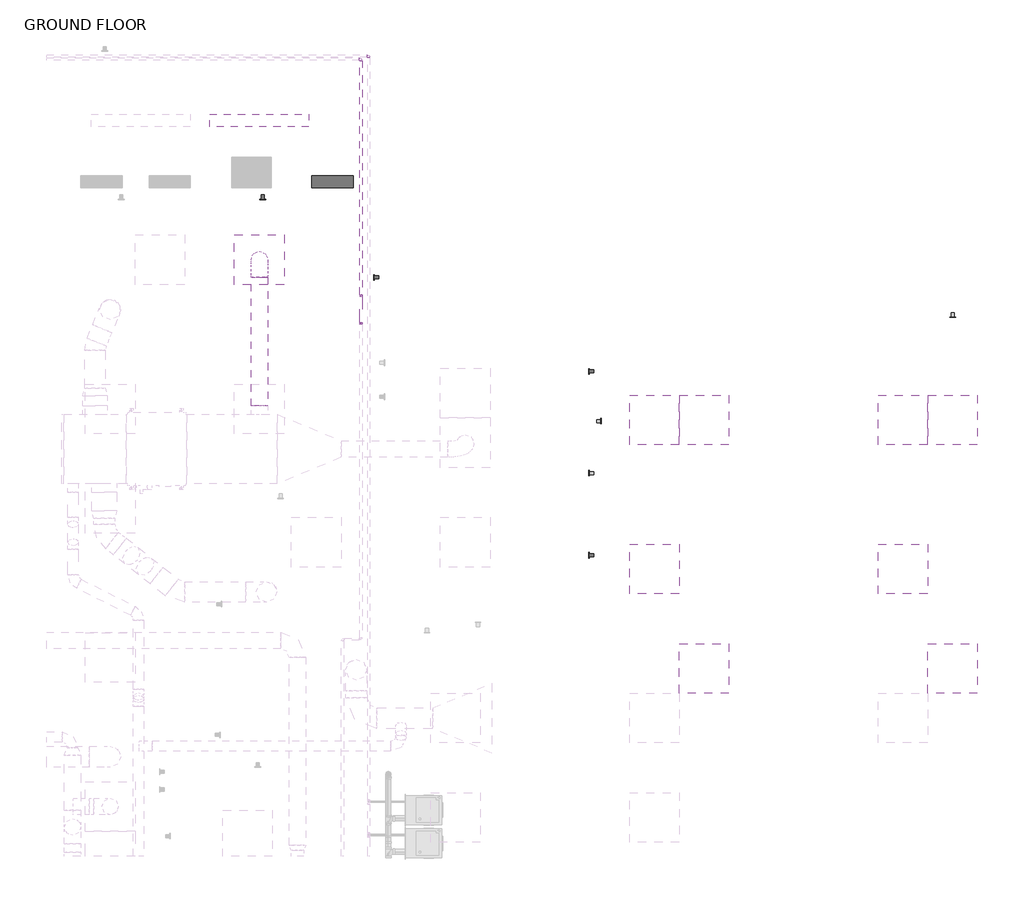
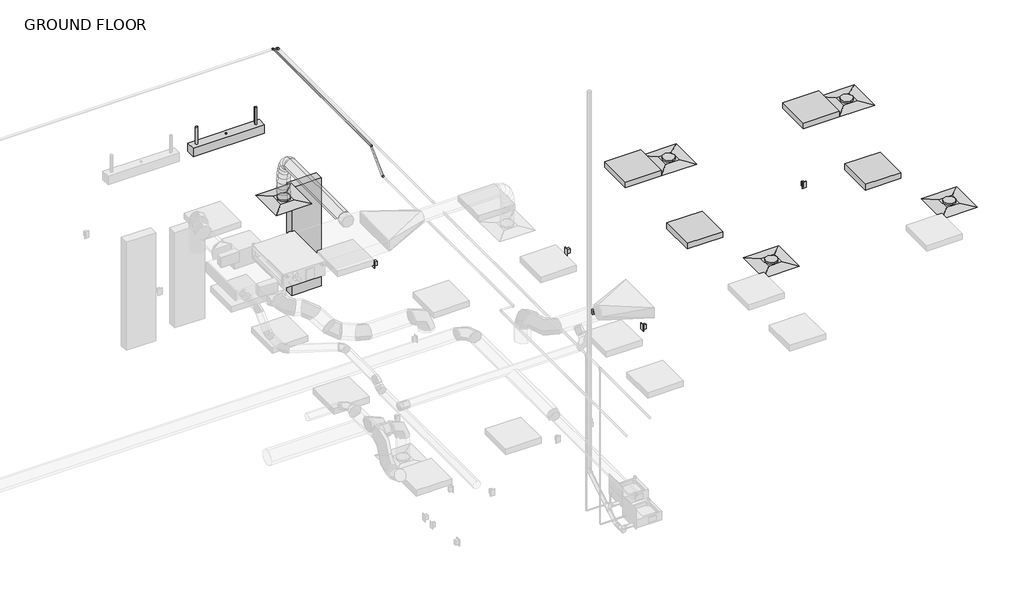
# One storey, part 21 of 21: 8 proxies, 5 air terminals, 5 light fixtures, 4 pipe fittings, 2 duct segments, 2 pipe segments.
"""IFC4 building model written with IfcOpenShell, lengths in millimetres."""

from ifc_helpers import new_model, si_unit, point, frame, frame_2d, origin, place, context, project, spatial, circle_curve, ellipse_curve, trimmed, segment, composite_curve, outline, extrude, transform, mapped, element, save
from ifc_brep_helpers import plane_surface, cylinder_surface, advanced_brep
from components import air_terminal_e9020785, duplex_receptacle_countertop_10251bba, lighting_and_appliance_panelboard_208v_mcb_surface_400_a_1492eeec, suspended_fluorescent_strip_non_hosted_strip_light_1x4_120v_4ea4ccb3, troffer_corner_insert_2x2_3lamp_e67c7f8f, elbow_generic_standard_1964ee4a, elbow_generic_standard_c06ac706

model = new_model("IFC4")

# Units and contexts
model_context = context("Model", 3, world=origin())
ifc_project = project(units=[si_unit("LENGTHUNIT", "METRE", prefix="MILLI")], contexts=[model_context])

# Site, building, storey
site = spatial("IfcSite", under=ifc_project)
building = spatial("IfcBuilding", under=site)
storey = spatial("IfcBuildingStorey", under=building, Name="GROUND FLOOR", Elevation=30480.0)

# Air terminals
placement = place(None, origin())
air_terminal_shape = air_terminal_e9020785(model_context)
element("IfcAirTerminal", 1, ObjectType="Supply Diffuser - Rectangular Face Round Neck - Hosted : 24\"x24\" Face 8\" Neck - Hosted", at=placement, inside=storey, context=model_context, shape_type="MappedRepresentation", body=[
    mapped(air_terminal_shape, transform((12040.5545393, 5163.5445005, 33223.2), x_axis=(0.0, -1.0, 0.0), y_axis=(-1.0, 0.0, 0.0), z_axis=(0.0, 0.0, -1.0))),
])
element("IfcAirTerminal", 2, ObjectType="Supply Diffuser - Rectangular Face Round Neck - Hosted : 24\"x24\" Face 8\" Neck - Hosted", at=placement, inside=storey, context=model_context, shape_type="MappedRepresentation", body=[
    mapped(air_terminal_shape, transform((17496.7920393, 3199.8070005, 33223.2), x_axis=(0.0, -1.0, 0.0), y_axis=(-1.0, 0.0, 0.0), z_axis=(0.0, 0.0, -1.0))),
])
element("IfcAirTerminal", 3, ObjectType="Supply Diffuser - Rectangular Face Round Neck - Hosted : 24\"x24\" Face 8\" Neck - Hosted", at=placement, inside=storey, context=model_context, shape_type="MappedRepresentation", body=[
    mapped(air_terminal_shape, transform((20544.7920393, 3199.8070005, 33223.2), x_axis=(0.0, -1.0, 0.0), y_axis=(-1.0, 0.0, 0.0), z_axis=(0.0, 0.0, -1.0))),
])
element("IfcAirTerminal", 4, ObjectType="Supply Diffuser - Rectangular Face Round Neck - Hosted : 24\"x24\" Face 8\" Neck - Hosted", at=placement, inside=storey, context=model_context, shape_type="MappedRepresentation", body=[
    mapped(air_terminal_shape, transform((20544.7920393, 151.8070005, 33223.2), x_axis=(0.0, -1.0, 0.0), y_axis=(-1.0, 0.0, 0.0), z_axis=(0.0, 0.0, -1.0))),
])
element("IfcAirTerminal", 5, ObjectType="Supply Diffuser - Rectangular Face Round Neck - Hosted : 24\"x24\" Face 8\" Neck - Hosted", at=placement, inside=storey, context=model_context, shape_type="MappedRepresentation", body=[
    mapped(air_terminal_shape, transform((17496.7920393, 151.8070005, 33223.2), x_axis=(0.0, -1.0, 0.0), y_axis=(-1.0, 0.0, 0.0), z_axis=(0.0, 0.0, -1.0))),
])

# Proxies
duplex_receptacle_countertop_shape = duplex_receptacle_countertop_10251bba(model_context)
element("IfcBuildingElementProxy", 6, Name="Duplex Receptacle : Countertop", ObjectType="Duplex Receptacle : Countertop", at=placement, inside=storey, context=model_context, shape_type="MappedRepresentation", body=[
    mapped(duplex_receptacle_countertop_shape, transform((12083.1234359, 5906.4945005, 31699.2), x_axis=(1.0, 0.0, 0.0), y_axis=(0.0, 0.0, 1.0), z_axis=(0.0, -1.0, 0.0))),
])
element("IfcBuildingElementProxy", 7, Name="Duplex Receptacle : Countertop", ObjectType="Duplex Receptacle : Countertop", at=placement, inside=storey, context=model_context, shape_type="MappedRepresentation", body=[
    mapped(duplex_receptacle_countertop_shape, transform((13450.2545393, 4948.4443724, 31699.2), x_axis=(0.0, -1.0, 0.0), y_axis=(0.0, 0.0, 1.0), z_axis=(-1.0, 0.0, 0.0))),
])
element("IfcBuildingElementProxy", 8, Name="Duplex Receptacle : Countertop", ObjectType="Duplex Receptacle : Countertop", at=placement, inside=storey, context=model_context, shape_type="MappedRepresentation", body=[
    mapped(duplex_receptacle_countertop_shape, transform((16088.906325, 1539.5608469, 31699.2), x_axis=(0.0, -1.0, 0.0), y_axis=(0.0, 0.0, 1.0), z_axis=(-1.0, 0.0, 0.0))),
])
element("IfcBuildingElementProxy", 9, Name="Duplex Receptacle : Countertop", ObjectType="Duplex Receptacle : Countertop", at=placement, inside=storey, context=model_context, shape_type="MappedRepresentation", body=[
    mapped(duplex_receptacle_countertop_shape, transform((16088.906325, 3795.2532913, 31699.2), x_axis=(0.0, -1.0, 0.0), y_axis=(0.0, 0.0, 1.0), z_axis=(-1.0, 0.0, 0.0))),
])
element("IfcBuildingElementProxy", 10, Name="Duplex Receptacle : Standard", ObjectType="Duplex Receptacle : Standard", at=placement, inside=storey, context=model_context, shape_type="MappedRepresentation", body=[
    mapped(duplex_receptacle_countertop_shape, transform((16088.906325, 2547.8133122, 30937.2), x_axis=(0.0, -1.0, 0.0), y_axis=(0.0, 0.0, 1.0), z_axis=(-1.0, 0.0, 0.0))),
])
element("IfcBuildingElementProxy", 11, Name="Duplex Receptacle : Standard", ObjectType="Duplex Receptacle : Standard", at=placement, inside=storey, context=model_context, shape_type="MappedRepresentation", body=[
    mapped(duplex_receptacle_countertop_shape, transform((16231.781325, 3185.3893172, 30937.2), x_axis=(0.0, 1.0, 0.0), y_axis=(0.0, 0.0, 1.0), z_axis=(1.0, 0.0, 0.0))),
])
element("IfcBuildingElementProxy", 12, Name="Duplex Receptacle : Standard", ObjectType="Duplex Receptacle : Standard", at=placement, inside=storey, context=model_context, shape_type="MappedRepresentation", body=[
    mapped(duplex_receptacle_countertop_shape, transform((20546.6842063, 4461.8695005, 30937.2), x_axis=(1.0, 0.0, 0.0), y_axis=(0.0, 0.0, 1.0), z_axis=(0.0, -1.0, 0.0))),
])
lighting_and_appliance_panelboard_208v_mcb_surface_400_a_shape = lighting_and_appliance_panelboard_208v_mcb_surface_400_a_1492eeec(model_context)
element("IfcBuildingElementProxy", 13, Name="Lighting and Appliance Panelboard - 208V MCB - Surface : 400 A", ObjectType="Lighting and Appliance Panelboard - 208V MCB - Surface : 400 A", at=placement, inside=storey, context=model_context, shape_type="MappedRepresentation", body=[
    mapped(lighting_and_appliance_panelboard_208v_mcb_surface_400_a_shape, transform((13034.193619, 6049.3695005, 31935.3056703), x_axis=(-1.0, 0.0, 0.0), y_axis=(0.0, 0.0, 1.0), z_axis=(0.0, 1.0, 0.0))),
])

# Duct segments
element("IfcDuctSegment", 14, ObjectType="Flex - Round", at=placement, inside=storey, context=model_context, shape_type="AdvancedBrep", body=[
    advanced_brep(
    [(11938.9545393, 4950.8195005, 33978.85), (12040.5545393, 4950.8195005, 33877.25), (12142.1545393, 4950.8195005, 33978.85), (12040.5545393, 4950.8195005, 34080.45), (11938.9545393, 4972.9798381, 33978.85), (12040.5545393, 4956.9529738, 33877.25), (12142.1545393, 4972.9798381, 33978.85), (12040.5545393, 4989.0067024, 34080.45), (11938.9545393, 5163.5445005, 33277.175), (12040.5545393, 5265.1408358, 33276.3120659), (12142.1545393, 5163.5445005, 33277.175), (12040.5545393, 5061.9481652, 33278.0379341), (11938.9545393, 5022.484368, 33962.8332928), (12040.5545393, 4972.7563767, 33872.1369633), (12142.1545393, 5022.484368, 33962.8332928), (12040.5545393, 5072.2123592, 34053.5296222), (11938.9545393, 5076.2316664, 33918.4601975), (12040.5545393, 4997.2093755, 33851.9488743), (12142.1545393, 5076.2316664, 33918.4601975), (12040.5545393, 5155.2539573, 33984.9715207), (11938.9545393, 5114.5944158, 33851.2462539), (12040.5545393, 5020.6511868, 33810.8773504), (12142.1545393, 5114.5944158, 33851.2462539), (12040.5545393, 5208.5376447, 33891.6151575), (11938.9545393, 5140.105636, 33766.7070017), (12040.5545393, 5040.8288551, 33744.0124582), (12142.1545393, 5140.105636, 33766.7070017), (12040.5545393, 5239.382417, 33789.4015452), (11938.9545393, 5155.2983472, 33670.3579805), (12040.5545393, 5054.2705013, 33658.768328), (12142.1545393, 5155.2983472, 33670.3579805), (12040.5545393, 5256.3261931, 33681.947633), (11938.9545393, 5162.7055692, 33567.7147301), (12040.5545393, 5061.1818121, 33562.9970113), (12142.1545393, 5162.7055692, 33567.7147301), (12040.5545393, 5264.2293264, 33572.4324488), (11938.9545393, 5164.8603222, 33464.29279), (12040.5545393, 5063.2542663, 33463.5251708), (12142.1545393, 5164.8603222, 33464.29279), (12040.5545393, 5266.466378, 33465.0604093), (11938.9545393, 5164.2956259, 33365.6077001), (12040.5545393, 5062.6980949, 33366.3298518), (12142.1545393, 5164.2956259, 33365.6077001), (12040.5545393, 5265.893157, 33364.8855485)],
    [
        (0, 1, circle_curve(frame((12040.5545393, 4950.8195005, 33978.85), z_axis=(0.0, -1.0, 0.0), x_axis=(-1.0, 0.0, 0.0)), 101.6)),
        (1, 2, circle_curve(frame((12040.5545393, 4950.8195005, 33978.85), z_axis=(0.0, -1.0, 0.0), x_axis=(-1.0, 0.0, 0.0)), 101.6)),
        (2, 3, circle_curve(frame((12040.5545393, 4950.8195005, 33978.85), z_axis=(0.0, -1.0, 0.0), x_axis=(-1.0, 0.0, 0.0)), 101.6)),
        (3, 0, circle_curve(frame((12040.5545393, 4950.8195005, 33978.85), z_axis=(0.0, -1.0, 0.0), x_axis=(-1.0, 0.0, 0.0)), 101.6)),
        (0, 4),
        (4, 5, ellipse_curve(frame((12040.5545393, 4972.9798381, 33978.85), z_axis=(0.0, -0.9877857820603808, 0.15581799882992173), x_axis=(0.0, -0.15581799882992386, -0.9877857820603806)), 102.8563094, 101.6)),
        (5, 1),
        (5, 6, ellipse_curve(frame((12040.5545393, 4972.9798381, 33978.85), z_axis=(0.0, -0.9877857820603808, 0.15581799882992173), x_axis=(0.0, -0.15581799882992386, -0.9877857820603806)), 102.8563094, 101.6)),
        (6, 2),
        (6, 7, ellipse_curve(frame((12040.5545393, 4972.9798381, 33978.85), z_axis=(0.0, -0.9877857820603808, 0.15581799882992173), x_axis=(0.0, -0.15581799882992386, -0.9877857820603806)), 102.8563094, 101.6)),
        (7, 3),
        (7, 4, ellipse_curve(frame((12040.5545393, 4972.9798381, 33978.85), z_axis=(0.0, -0.9877857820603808, 0.15581799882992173), x_axis=(0.0, -0.15581799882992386, -0.9877857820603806)), 102.8563094, 101.6)),
        (8, 9, circle_curve(frame((12040.5545393, 5163.5445005, 33277.175), z_axis=(0.0, -0.008493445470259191, -0.9999639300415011), x_axis=(-1.0, 0.0, 0.0)), 101.6)),
        (9, 10, circle_curve(frame((12040.5545393, 5163.5445005, 33277.175), z_axis=(0.0, -0.008493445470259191, -0.9999639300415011), x_axis=(-1.0, 0.0, 0.0)), 101.6)),
        (10, 11, circle_curve(frame((12040.5545393, 5163.5445005, 33277.175), z_axis=(0.0, -0.008493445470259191, -0.9999639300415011), x_axis=(-1.0, 0.0, 0.0)), 101.6)),
        (11, 8, circle_curve(frame((12040.5545393, 5163.5445005, 33277.175), z_axis=(0.0, -0.008493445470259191, -0.9999639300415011), x_axis=(-1.0, 0.0, 0.0)), 101.6)),
        (4, 12),
        (12, 13, ellipse_curve(frame((12040.5545393, 5022.484368, 33962.8332928), z_axis=(0.0, -0.8768478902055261, 0.48076790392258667), x_axis=(0.0, -0.48076790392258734, -0.8768478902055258)), 103.4345072, 101.6)),
        (13, 5),
        (13, 14, ellipse_curve(frame((12040.5545393, 5022.484368, 33962.8332928), z_axis=(0.0, -0.8768478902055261, 0.48076790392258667), x_axis=(0.0, -0.48076790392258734, -0.8768478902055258)), 103.4345072, 101.6)),
        (14, 6),
        (14, 15, ellipse_curve(frame((12040.5545393, 5022.484368, 33962.8332928), z_axis=(0.0, -0.8768478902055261, 0.48076790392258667), x_axis=(0.0, -0.48076790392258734, -0.8768478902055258)), 103.4345072, 101.6)),
        (15, 7),
        (15, 12, ellipse_curve(frame((12040.5545393, 5022.484368, 33962.8332928), z_axis=(0.0, -0.8768478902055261, 0.48076790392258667), x_axis=(0.0, -0.48076790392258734, -0.8768478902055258)), 103.4345072, 101.6)),
        (12, 16),
        (16, 17, ellipse_curve(frame((12040.5545393, 5076.2316664, 33918.4601975), z_axis=(0.0, -0.6439444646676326, 0.7650722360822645), x_axis=(0.0, -0.7650722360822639, -0.6439444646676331)), 103.2873592, 101.6)),
        (17, 13),
        (17, 18, ellipse_curve(frame((12040.5545393, 5076.2316664, 33918.4601975), z_axis=(0.0, -0.6439444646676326, 0.7650722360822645), x_axis=(0.0, -0.7650722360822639, -0.6439444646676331)), 103.2873592, 101.6)),
        (18, 14),
        (18, 19, ellipse_curve(frame((12040.5545393, 5076.2316664, 33918.4601975), z_axis=(0.0, -0.6439444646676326, 0.7650722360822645), x_axis=(0.0, -0.7650722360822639, -0.6439444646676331)), 103.2873592, 101.6)),
        (19, 15),
        (19, 16, ellipse_curve(frame((12040.5545393, 5076.2316664, 33918.4601975), z_axis=(0.0, -0.6439444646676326, 0.7650722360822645), x_axis=(0.0, -0.7650722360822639, -0.6439444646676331)), 103.2873592, 101.6)),
        (16, 20),
        (20, 21, ellipse_curve(frame((12040.5545393, 5114.5944158, 33851.2462539), z_axis=(0.0, -0.39480748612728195, 0.9187638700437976), x_axis=(0.0, -0.9187638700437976, -0.39480748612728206)), 102.24959, 101.6)),
        (21, 17),
        (21, 22, ellipse_curve(frame((12040.5545393, 5114.5944158, 33851.2462539), z_axis=(0.0, -0.39480748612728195, 0.9187638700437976), x_axis=(0.0, -0.9187638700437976, -0.39480748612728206)), 102.24959, 101.6)),
        (22, 18),
        (22, 23, ellipse_curve(frame((12040.5545393, 5114.5944158, 33851.2462539), z_axis=(0.0, -0.39480748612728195, 0.9187638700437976), x_axis=(0.0, -0.9187638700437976, -0.39480748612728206)), 102.24959, 101.6)),
        (23, 19),
        (23, 20, ellipse_curve(frame((12040.5545393, 5114.5944158, 33851.2462539), z_axis=(0.0, -0.39480748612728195, 0.9187638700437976), x_axis=(0.0, -0.9187638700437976, -0.39480748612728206)), 102.24959, 101.6)),
        (20, 24),
        (24, 25, ellipse_curve(frame((12040.5545393, 5140.105636, 33766.7070017), z_axis=(0.0, -0.22285007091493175, 0.9748527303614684), x_axis=(0.0, -0.9748527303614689, -0.22285007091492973)), 101.8377216, 101.6)),
        (25, 21),
        (25, 26, ellipse_curve(frame((12040.5545393, 5140.105636, 33766.7070017), z_axis=(0.0, -0.22285007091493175, 0.9748527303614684), x_axis=(0.0, -0.9748527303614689, -0.22285007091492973)), 101.8377216, 101.6)),
        (26, 22),
        (26, 27, ellipse_curve(frame((12040.5545393, 5140.105636, 33766.7070017), z_axis=(0.0, -0.22285007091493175, 0.9748527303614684), x_axis=(0.0, -0.9748527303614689, -0.22285007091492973)), 101.8377216, 101.6)),
        (27, 23),
        (27, 24, ellipse_curve(frame((12040.5545393, 5140.105636, 33766.7070017), z_axis=(0.0, -0.22285007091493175, 0.9748527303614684), x_axis=(0.0, -0.9748527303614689, -0.22285007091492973)), 101.8377216, 101.6)),
        (24, 28),
        (28, 29, ellipse_curve(frame((12040.5545393, 5155.2983472, 33670.3579805), z_axis=(0.0, -0.11396993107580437, 0.9934841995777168), x_axis=(0.0, -0.9934841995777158, -0.11396993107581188)), 101.6904406, 101.6)),
        (29, 25),
        (29, 30, ellipse_curve(frame((12040.5545393, 5155.2983472, 33670.3579805), z_axis=(0.0, -0.11396993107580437, 0.9934841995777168), x_axis=(0.0, -0.9934841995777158, -0.11396993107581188)), 101.6904406, 101.6)),
        (30, 26),
        (30, 31, ellipse_curve(frame((12040.5545393, 5155.2983472, 33670.3579805), z_axis=(0.0, -0.11396993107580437, 0.9934841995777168), x_axis=(0.0, -0.9934841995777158, -0.11396993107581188)), 101.6904406, 101.6)),
        (31, 27),
        (31, 28, ellipse_curve(frame((12040.5545393, 5155.2983472, 33670.3579805), z_axis=(0.0, -0.11396993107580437, 0.9934841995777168), x_axis=(0.0, -0.9934841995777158, -0.11396993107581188)), 101.6904406, 101.6)),
        (28, 32),
        (32, 33, ellipse_curve(frame((12040.5545393, 5162.7055692, 33567.7147301), z_axis=(0.0, -0.04641902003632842, 0.9989220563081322), x_axis=(0.0, -0.9989220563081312, -0.04641902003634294)), 101.6333122, 101.6)),
        (33, 29),
        (33, 34, ellipse_curve(frame((12040.5545393, 5162.7055692, 33567.7147301), z_axis=(0.0, -0.04641902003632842, 0.9989220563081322), x_axis=(0.0, -0.9989220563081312, -0.04641902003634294)), 101.6333122, 101.6)),
        (34, 30),
        (34, 35, ellipse_curve(frame((12040.5545393, 5162.7055692, 33567.7147301), z_axis=(0.0, -0.04641902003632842, 0.9989220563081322), x_axis=(0.0, -0.9989220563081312, -0.04641902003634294)), 101.6333122, 101.6)),
        (35, 31),
        (35, 32, ellipse_curve(frame((12040.5545393, 5162.7055692, 33567.7147301), z_axis=(0.0, -0.04641902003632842, 0.9989220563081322), x_axis=(0.0, -0.9989220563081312, -0.04641902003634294)), 101.6333122, 101.6)),
        (32, 36),
        (36, 37, ellipse_curve(frame((12040.5545393, 5164.8603222, 33464.29279), z_axis=(0.0, -0.007554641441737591, 0.9999714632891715), x_axis=(0.0, -0.9999714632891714, -0.007554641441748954)), 101.6089554, 101.6)),
        (37, 33),
        (37, 38, ellipse_curve(frame((12040.5545393, 5164.8603222, 33464.29279), z_axis=(0.0, -0.007554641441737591, 0.9999714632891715), x_axis=(0.0, -0.9999714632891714, -0.007554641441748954)), 101.6089554, 101.6)),
        (38, 34),
        (38, 39, ellipse_curve(frame((12040.5545393, 5164.8603222, 33464.29279), z_axis=(0.0, -0.007554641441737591, 0.9999714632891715), x_axis=(0.0, -0.9999714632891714, -0.007554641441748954)), 101.6089554, 101.6)),
        (39, 35),
        (39, 36, ellipse_curve(frame((12040.5545393, 5164.8603222, 33464.29279), z_axis=(0.0, -0.007554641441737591, 0.9999714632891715), x_axis=(0.0, -0.9999714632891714, -0.007554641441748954)), 101.6089554, 101.6)),
        (36, 40),
        (40, 41, ellipse_curve(frame((12040.5545393, 5164.2956259, 33365.6077001), z_axis=(0.0, 0.007107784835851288, 0.9999747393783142), x_axis=(8.836425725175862e-12, -0.9999747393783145, 0.007107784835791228)), 101.6000975, 101.6)),
        (41, 37),
        (41, 42, ellipse_curve(frame((12040.5545393, 5164.2956259, 33365.6077001), z_axis=(0.0, 0.007107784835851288, 0.9999747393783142), x_axis=(8.836425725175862e-12, -0.9999747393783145, 0.007107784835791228)), 101.6000975, 101.6)),
        (42, 38),
        (42, 43, ellipse_curve(frame((12040.5545393, 5164.2956259, 33365.6077001), z_axis=(0.0, 0.007107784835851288, 0.9999747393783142), x_axis=(8.836425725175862e-12, -0.9999747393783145, 0.007107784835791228)), 101.6000975, 101.6)),
        (43, 39),
        (43, 40, ellipse_curve(frame((12040.5545393, 5164.2956259, 33365.6077001), z_axis=(0.0, 0.007107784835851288, 0.9999747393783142), x_axis=(8.836425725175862e-12, -0.9999747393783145, 0.007107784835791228)), 101.6000975, 101.6)),
        (40, 8),
        (11, 41),
        (10, 42),
        (9, 43),
    ],
    [
        plane_surface(frame((11938.9545393, 4950.8195005, 33978.85), z_axis=(0.0, -1.0, 0.0), x_axis=(0.0, 0.0, 1.0))),
        cylinder_surface(frame((12040.5545393, 4950.8195005, 33978.85), z_axis=(0.0, -1.0, 0.0), x_axis=(-1.0, 0.0, 0.0)), 101.6),
        plane_surface(frame((12040.5545393, 5265.1408358, 33276.3120659), z_axis=(0.0, -0.008493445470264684, -0.9999639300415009), x_axis=(1.0, 0.0, 0.0))),
        cylinder_surface(frame((12040.5545393, 4972.9798381, 33978.85), z_axis=(0.0, -0.951441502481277, 0.30782960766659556), x_axis=(-1.0, 0.0, 0.0)), 101.6),
        cylinder_surface(frame((12040.5545393, 5022.484368, 33962.8332928), z_axis=(0.0, -0.7711508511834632, 0.6366524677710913), x_axis=(-1.0, 0.0, 0.0)), 101.6),
        cylinder_surface(frame((12040.5545393, 5076.2316664, 33918.4601975), z_axis=(0.0, -0.4956984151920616, 0.8684947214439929), x_axis=(-1.0, 0.0, 0.0)), 101.6),
        cylinder_surface(frame((12040.5545393, 5114.5944158, 33851.2462539), z_axis=(0.0, -0.2889001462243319, 0.9573592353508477), x_axis=(-1.0, 0.0, 0.0)), 101.6),
        cylinder_surface(frame((12040.5545393, 5140.105636, 33766.7070017), z_axis=(0.0, -0.15575959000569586, 0.9877949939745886), x_axis=(-1.0, 0.0, 0.0)), 101.6),
        cylinder_surface(frame((12040.5545393, 5155.2983472, 33670.3579805), z_axis=(0.0, -0.07197754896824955, 0.9974062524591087), x_axis=(-1.0, 0.0, 0.0)), 101.6),
        cylinder_surface(frame((12040.5545393, 5162.7055692, 33567.7147301), z_axis=(0.0, -0.020830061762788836, 0.9997830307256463), x_axis=(-1.0, 0.0, 0.0)), 101.6),
        cylinder_surface(frame((12040.5545393, 5164.8603222, 33464.29279), z_axis=(0.0, 0.005722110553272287, 0.9999836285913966), x_axis=(-1.0, 0.0, 0.0)), 101.6),
        cylinder_surface(frame((12040.5545393, 5164.2956259, 33365.6077001), z_axis=(0.0, 0.00849344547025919, 0.9999639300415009), x_axis=(-1.0, 0.0, 0.0)), 101.6),
    ],
    [
        (0, [[1, 2, 3, 4]]),
        (1, [[-1, 5, 6, 7]]),
        (1, [[-2, -7, 8, 9]]),
        (1, [[-3, -9, 10, 11]]),
        (1, [[-4, -11, 12, -5]]),
        (2, [[13, 14, 15, 16]]),
        (3, [[-6, 17, 18, 19]]),
        (3, [[-8, -19, 20, 21]]),
        (3, [[-10, -21, 22, 23]]),
        (3, [[-12, -23, 24, -17]]),
        (4, [[-18, 25, 26, 27]]),
        (4, [[-20, -27, 28, 29]]),
        (4, [[-22, -29, 30, 31]]),
        (4, [[-24, -31, 32, -25]]),
        (5, [[-26, 33, 34, 35]]),
        (5, [[-28, -35, 36, 37]]),
        (5, [[-30, -37, 38, 39]]),
        (5, [[-32, -39, 40, -33]]),
        (6, [[-34, 41, 42, 43]]),
        (6, [[-36, -43, 44, 45]]),
        (6, [[-38, -45, 46, 47]]),
        (6, [[-40, -47, 48, -41]]),
        (7, [[-42, 49, 50, 51]]),
        (7, [[-44, -51, 52, 53]]),
        (7, [[-46, -53, 54, 55]]),
        (7, [[-48, -55, 56, -49]]),
        (8, [[-50, 57, 58, 59]]),
        (8, [[-52, -59, 60, 61]]),
        (8, [[-54, -61, 62, 63]]),
        (8, [[-56, -63, 64, -57]]),
        (9, [[-58, 65, 66, 67]]),
        (9, [[-60, -67, 68, 69]]),
        (9, [[-62, -69, 70, 71]]),
        (9, [[-64, -71, 72, -65]]),
        (10, [[-66, 73, 74, 75]]),
        (10, [[-68, -75, 76, 77]]),
        (10, [[-70, -77, 78, 79]]),
        (10, [[-72, -79, 80, -73]]),
        (11, [[-74, 81, -16, 82]]),
        (11, [[-76, -82, -15, 83]]),
        (11, [[-78, -83, -14, 84]]),
        (11, [[-80, -84, -13, -81]]),
    ],
),
])
element("IfcDuctSegment", 15, ObjectType="Taps / Short Radius", at=placement, inside=storey, context=model_context, shape_type="SweptSolid", body=[
    extrude(outline(composite_curve([segment(trimmed(circle_curve(frame_2d((33978.85, 12040.5545393)), 101.6), [point((33978.85, 12142.1545393))], [point((34080.45, 12040.5545393))], False, "CARTESIAN"), True, "CONTINUOUS"), segment(trimmed(circle_curve(frame_2d((33978.85, 12040.5545393)), 101.6), [point((34080.45, 12040.5545393))], [point((33978.85, 11938.9545393))], False, "CARTESIAN"), True, "CONTINUOUS"), segment(trimmed(circle_curve(frame_2d((33978.85, 12040.5545393)), 101.6), [point((33978.85, 11938.9545393))], [point((33877.25, 12040.5545393))], False, "CARTESIAN"), True, "CONTINUOUS"), segment(trimmed(circle_curve(frame_2d((33978.85, 12040.5545393)), 101.6), [point((33877.25, 12040.5545393))], [point((33978.85, 12142.1545393))], False, "CARTESIAN"), True, "CONTINUOUS")], self_intersect=False)), frame((0.0, 3371.327897, 0.0), z_axis=(0.0, 1.0, 0.0), x_axis=(0.0, 0.0, 1.0)), (0.0, 0.0, 1.0), 1579.4916035),
])

# Light fixtures
suspended_fluorescent_strip_non_hosted_strip_light_1x4_120v_shape = suspended_fluorescent_strip_non_hosted_strip_light_1x4_120v_4ea4ccb3(model_context)
element("IfcLightFixture", 16, ObjectType="Suspended Fluorescent Strip - Non-Hosted : Strip Light 1x4 - 120V Normal", at=placement, inside=storey, context=model_context, shape_type="MappedRepresentation", body=[
    mapped(suspended_fluorescent_strip_non_hosted_strip_light_1x4_120v_shape, transform((12040.5545393, 6874.6802316, 33223.2), x_axis=(1.0, 0.0, 0.0), y_axis=(0.0, 1.0, 0.0), z_axis=(0.0, 0.0, 1.0))),
])
troffer_corner_insert_2x2_3lamp_shape = troffer_corner_insert_2x2_3lamp_e67c7f8f(model_context)
element("IfcLightFixture", 17, ObjectType="Troffer Corner Insert : 2x2 3Lamp", at=placement, inside=storey, context=model_context, shape_type="MappedRepresentation", body=[
    mapped(troffer_corner_insert_2x2_3lamp_shape, transform((16887.1920393, 3199.8070005, 30784.8), x_axis=(1.0, 0.0, 0.0), y_axis=(0.0, 1.0, 0.0), z_axis=(0.0, 0.0, 1.0))),
])
element("IfcLightFixture", 18, ObjectType="Troffer Corner Insert : 2x2 3Lamp", at=placement, inside=storey, context=model_context, shape_type="MappedRepresentation", body=[
    mapped(troffer_corner_insert_2x2_3lamp_shape, transform((19935.1920393, 3199.8070005, 30784.8), x_axis=(1.0, 0.0, 0.0), y_axis=(0.0, 1.0, 0.0), z_axis=(0.0, 0.0, 1.0))),
])
element("IfcLightFixture", 19, ObjectType="Troffer Corner Insert : 2x2 3Lamp", at=placement, inside=storey, context=model_context, shape_type="MappedRepresentation", body=[
    mapped(troffer_corner_insert_2x2_3lamp_shape, transform((16887.1920393, 1371.0070005, 30784.8), x_axis=(1.0, 0.0, 0.0), y_axis=(0.0, 1.0, 0.0), z_axis=(0.0, 0.0, 1.0))),
])
element("IfcLightFixture", 20, ObjectType="Troffer Corner Insert : 2x2 3Lamp", at=placement, inside=storey, context=model_context, shape_type="MappedRepresentation", body=[
    mapped(troffer_corner_insert_2x2_3lamp_shape, transform((19935.1920393, 1371.0070005, 30784.8), x_axis=(1.0, 0.0, 0.0), y_axis=(0.0, 1.0, 0.0), z_axis=(0.0, 0.0, 1.0))),
])

# Pipe fittings
elbow_generic_standard_shape = elbow_generic_standard_1964ee4a(model_context)
element("IfcPipeFitting", 21, ObjectType="Elbow - Generic : Standard", at=placement, inside=storey, context=model_context, shape_type="MappedRepresentation", body=[
    mapped(elbow_generic_standard_shape, transform((13289.5512041, 4726.2310161, 34023.2999997), x_axis=(0.0, -1.0, 0.0), y_axis=(0.0, 0.0, -1.0), z_axis=(1.0, 0.0, 0.0))),
])
element("IfcPipeFitting", 22, ObjectType="Elbow - Generic : Standard", at=placement, inside=storey, context=model_context, shape_type="MappedRepresentation", body=[
    mapped(elbow_generic_standard_shape, transform((13289.5512041, 4383.3310166, 33680.4), x_axis=(0.0, -0.7071067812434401, -0.7071067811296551), y_axis=(0.0, -0.7071067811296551, 0.7071067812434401), z_axis=(-1.0, 0.0, 0.0))),
])
elbow_generic_standard_2_shape = elbow_generic_standard_c06ac706(model_context)
element("IfcPipeFitting", 23, ObjectType="Elbow - Generic : Standard", at=placement, inside=storey, context=model_context, shape_type="MappedRepresentation", body=[
    mapped(elbow_generic_standard_2_shape, transform((13383.5569177, 7665.0593518, 33978.2831664), x_axis=(0.0, 1.0, 0.0), y_axis=(-1.0, 0.0, 0.0), z_axis=(0.0, 0.0, 1.0))),
])
element("IfcPipeFitting", 24, ObjectType="Elbow - Generic : Standard", at=placement, inside=storey, context=model_context, shape_type="MappedRepresentation", body=[
    mapped(elbow_generic_standard_2_shape, transform((13289.5512041, 7628.1810166, 34023.2999997), x_axis=(0.0, 1.0, 0.0), y_axis=(-1.0, 0.0, 0.0), z_axis=(0.0, 0.0, 1.0))),
])

# Pipe segments
element("IfcPipeSegment", 25, ObjectType="Copper", at=placement, inside=storey, context=model_context, shape_type="SweptSolid", body=[
    extrude(outline(composite_curve([segment(trimmed(circle_curve(frame_2d((34023.2999997, 13289.5512041)), 14.2875), [point((34023.2999997, 13275.2637041))], [point((34009.0124997, 13289.5512041))], False, "CARTESIAN"), True, "CONTINUOUS"), segment(trimmed(circle_curve(frame_2d((34023.2999997, 13289.5512041)), 14.2875), [point((34009.0124997, 13289.5512041))], [point((34023.2999997, 13303.8387041))], False, "CARTESIAN"), True, "CONTINUOUS"), segment(trimmed(circle_curve(frame_2d((34023.2999997, 13289.5512041)), 14.2875), [point((34023.2999997, 13303.8387041))], [point((34037.5874997, 13289.5512041))], False, "CARTESIAN"), True, "CONTINUOUS"), segment(trimmed(circle_curve(frame_2d((34023.2999997, 13289.5512041)), 14.2875), [point((34037.5874997, 13289.5512041))], [point((34023.2999997, 13275.2637041))], False, "CARTESIAN"), True, "CONTINUOUS")], self_intersect=False)), frame((0.0, 4734.7793485, 0.0), z_axis=(0.0, 1.0, 0.0), x_axis=(0.0, 0.0, 1.0)), (0.0, 0.0, 1.0), 2872.7641681),
])
element("IfcPipeSegment", 26, ObjectType="Copper", at=placement, inside=storey, context=model_context, shape_type="SweptSolid", body=[
    extrude(outline(composite_curve([segment(trimmed(circle_curve(frame_2d((0.0, -14.2875)), 14.2875), [point((-14.2875, -14.2875))], [point((0.0, 0.0))], False, "CARTESIAN"), True, "CONTINUOUS"), segment(trimmed(circle_curve(frame_2d((0.0, -14.2875)), 14.2875), [point((0.0, 0.0))], [point((14.2875, -14.2875))], False, "CARTESIAN"), True, "CONTINUOUS"), segment(trimmed(circle_curve(frame_2d((0.0, -14.2875)), 14.2875), [point((14.2875, -14.2875))], [point((0.0, -28.575))], False, "CARTESIAN"), True, "CONTINUOUS"), segment(trimmed(circle_curve(frame_2d((0.0, -14.2875)), 14.2875), [point((0.0, -28.575))], [point((-14.2875, -14.2875))], False, "CARTESIAN"), True, "CONTINUOUS")], self_intersect=False)), frame((13289.5512041, 4399.4783886, 33676.3417957), z_axis=(0.0, 0.707106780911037, 0.7071067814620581), x_axis=(1.0, 0.0, 0.0)), (0.0, 0.0, 1.0), 467.8371652),
])

save(model, "model.ifc")
